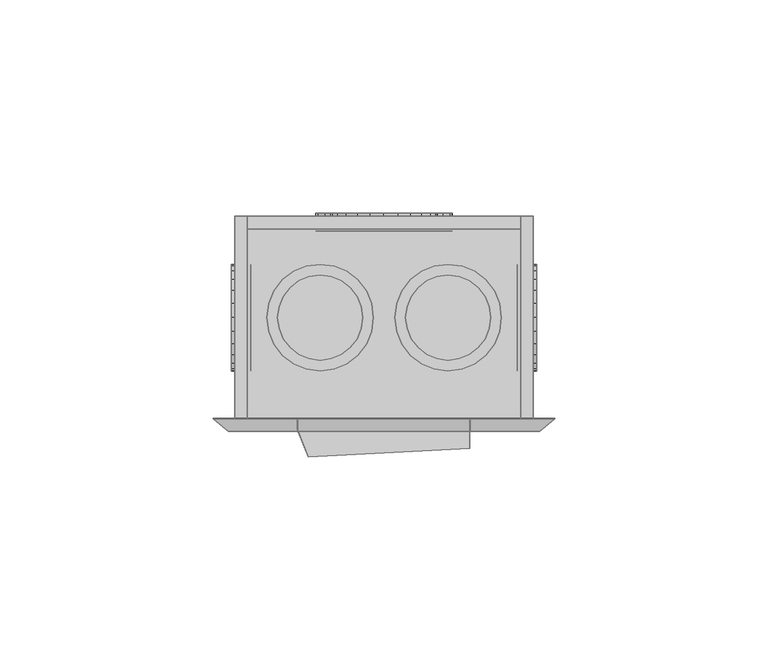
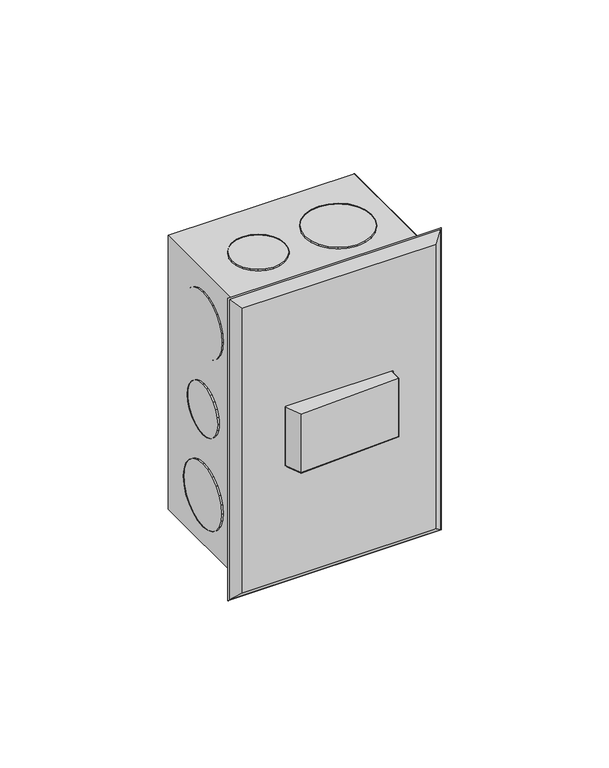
"""IFC4 building model written with IfcOpenShell, lengths in millimetres: proxy geometry,  210289 :  210289."""

from ifc_helpers import new_model, si_unit, origin, place, context, project, spatial, triangles, source, transform, mapped, element, save


def generic_models_4360b8d7(model_context):
    return source(origin(), model_context, "Body", "Tessellation", [
        triangles([(15874.5996368, 11498.7004578, 1254.3000378), (15871.5998199, 11498.7004578, 1148.7000154), (15874.5996368, 11498.7004578, 1145.6999805), (15871.5998199, 11498.7004578, 1251.2999302), (15804.6004211, 11498.7004578, 1254.3000378), (15807.600238, 11498.7004578, 1251.2999302), (15804.6004211, 11498.7004578, 1145.6999805), (15807.600238, 11498.7004578, 1148.7000154), (15871.5998199, 11546.199884, 1251.2999302), (15871.5998199, 11546.199884, 1148.7000154), (15804.6004211, 11546.199884, 1254.3000378), (15804.6004211, 11546.199884, 1145.6999805), (15807.600238, 11546.199884, 1251.2999302), (15874.5996368, 11546.199884, 1145.6999805), (15807.600238, 11546.199884, 1148.7000154), (15874.5996368, 11546.199884, 1254.3000378), (15871.5998199, 11543.2000671, 1251.2999302), (15807.600238, 11543.2000671, 1148.7000154), (15871.5998199, 11543.2000671, 1148.7000154), (15807.600238, 11543.2000671, 1251.2999302), (15853.499762, 11542.7000977, 1191.9999887), (15847.6001221, 11542.7000977, 1186.0999855), (15850.8999207, 11542.7000977, 1188.6999722), (15855.0996643, 11542.7000977, 1195.8999687), (15843.800354, 11542.7000977, 1184.5000105), (15855.5996338, 11542.7000977, 1200.0000092), (15839.5994476, 11542.7000977, 1183.9999683), (15855.0996643, 11542.7000977, 1204.0999769), (15835.4996979, 11542.7000977, 1184.5000105), (15853.499762, 11542.7000977, 1208.0000296), (15831.5999359, 11542.7000977, 1186.0999855), (15850.8999207, 11542.7000977, 1211.2999735), (15828.3001373, 11542.7000977, 1188.6999722), (15847.6001221, 11542.7000977, 1213.9000328), (15825.8002899, 11542.7000977, 1191.9999887), (15843.800354, 11542.7000977, 1215.5000078), (15824.2003876, 11542.7000977, 1195.8999687), (15839.5994476, 11542.7000977, 1215.9999773), (15823.6004242, 11542.7000977, 1200.0000092), (15835.4996979, 11542.7000977, 1215.5000078), (15824.2003876, 11542.7000977, 1204.0999769), (15831.5999359, 11542.7000977, 1213.9000328), (15825.8002899, 11542.7000977, 1208.0000296), (15828.3001373, 11542.7000977, 1211.2999735), (15835.4996979, 11546.8998413, 1184.5000105), (15839.5994476, 11546.8998413, 1183.9999683), (15843.800354, 11546.8998413, 1184.5000105), (15847.6001221, 11546.8998413, 1186.0999855), (15850.8999207, 11546.8998413, 1188.6999722), (15853.499762, 11546.8998413, 1191.9999887), (15855.0996643, 11546.8998413, 1195.8999687), (15855.5996338, 11546.8998413, 1200.0000092), (15855.0996643, 11546.8998413, 1204.0999769), (15853.499762, 11546.8998413, 1208.0000296), (15850.8999207, 11546.8998413, 1211.2999735), (15847.6001221, 11546.8998413, 1213.9000328), (15843.800354, 11546.8998413, 1215.5000078), (15839.5994476, 11546.8998413, 1215.9999773), (15835.4996979, 11546.8998413, 1215.5000078), (15831.5999359, 11546.8998413, 1213.9000328), (15828.3001373, 11546.8998413, 1211.2999735), (15825.8002899, 11546.8998413, 1208.0000296), (15824.2003876, 11546.8998413, 1204.0999769), (15823.6004242, 11546.8998413, 1200.0000092), (15824.2003876, 11546.8998413, 1195.8999687), (15825.8002899, 11546.8998413, 1191.9999887), (15828.3001373, 11546.8998413, 1188.6999722), (15831.5999359, 11546.8998413, 1186.0999855), (15850.4999451, 11542.7000977, 1227.8000565), (15845.9002258, 11542.7000977, 1223.2000465), (15848.5000671, 11542.7000977, 1225.2000698), (15851.6998718, 11542.7000977, 1230.8000187), (15842.9004089, 11542.7000977, 1221.8999805), (15852.0998474, 11542.7000977, 1233.9999687), (15839.5994476, 11542.7000977, 1221.500005), (15851.6998718, 11542.7000977, 1237.2000641), (15836.3996429, 11542.7000977, 1221.8999805), (15850.4999451, 11542.7000977, 1240.3000202), (15833.399826, 11542.7000977, 1223.2000465), (15848.5000671, 11542.7000977, 1242.800013), (15830.7999847, 11542.7000977, 1225.2000698), (15828.8001068, 11542.7000977, 1227.8000565), (15845.9002258, 11542.7000977, 1244.8000362), (15842.9004089, 11542.7000977, 1246.0999569), (15827.6001801, 11542.7000977, 1230.8000187), (15839.5994476, 11542.7000977, 1246.4999325), (15827.1002106, 11542.7000977, 1233.9999687), (15836.3996429, 11542.7000977, 1246.0999569), (15827.6001801, 11542.7000977, 1237.2000641), (15828.8001068, 11542.7000977, 1240.3000202), (15833.399826, 11542.7000977, 1244.8000362), (15830.7999847, 11542.7000977, 1242.800013), (15827.6001801, 11546.8998413, 1230.8000187), (15828.8001068, 11546.8998413, 1227.8000565), (15830.7999847, 11546.8998413, 1225.2000698), (15833.399826, 11546.8998413, 1223.2000465), (15836.3996429, 11546.8998413, 1221.8999805), (15839.5994476, 11546.8998413, 1221.500005), (15842.9004089, 11546.8998413, 1221.8999805), (15845.9002258, 11546.8998413, 1223.2000465), (15848.5000671, 11546.8998413, 1225.2000698), (15850.4999451, 11546.8998413, 1227.8000565), (15851.6998718, 11546.8998413, 1230.8000187), (15852.0998474, 11546.8998413, 1233.9999687), (15851.6998718, 11546.8998413, 1237.2000641), (15850.4999451, 11546.8998413, 1240.3000202), (15848.5000671, 11546.8998413, 1242.800013), (15845.9002258, 11546.8998413, 1244.8000362), (15842.9004089, 11546.8998413, 1246.0999569), (15839.5994476, 11546.8998413, 1246.4999325), (15836.3996429, 11546.8998413, 1246.0999569), (15833.399826, 11546.8998413, 1244.8000362), (15830.7999847, 11546.8998413, 1242.800013), (15828.8001068, 11546.8998413, 1240.3000202), (15827.6001801, 11546.8998413, 1237.2000641), (15827.1002106, 11546.8998413, 1233.9999687), (15845.9002258, 11546.8998413, 1155.1999821), (15850.4999451, 11546.8998413, 1159.6999981), (15848.5000671, 11546.8998413, 1157.2000053), (15842.9004089, 11546.8998413, 1153.8999887), (15851.6998718, 11546.8998413, 1162.8000269), (15839.5994476, 11546.8998413, 1153.5000132), (15852.0998474, 11546.8998413, 1165.9999769), (15836.3996429, 11546.8998413, 1153.8999887), (15851.6998718, 11546.8998413, 1169.1999996), (15833.399826, 11546.8998413, 1155.1999821), (15850.4999451, 11546.8998413, 1172.2000345), (15830.7999847, 11546.8998413, 1157.2000053), (15848.5000671, 11546.8998413, 1174.8000212), (15828.8001068, 11546.8998413, 1159.6999981), (15845.9002258, 11546.8998413, 1176.7999718), (15827.6001801, 11546.8998413, 1162.8000269), (15842.9004089, 11546.8998413, 1178.0999651), (15839.5994476, 11546.8998413, 1178.5000134), (15827.1002106, 11546.8998413, 1165.9999769), (15827.6001801, 11546.8998413, 1169.1999996), (15836.3996429, 11546.8998413, 1178.0999651), (15828.8001068, 11546.8998413, 1172.2000345), (15833.399826, 11546.8998413, 1176.7999718), (15830.7999847, 11546.8998413, 1174.8000212), (15842.9004089, 11542.7000977, 1178.0999651), (15839.5994476, 11542.7000977, 1178.5000134), (15845.9002258, 11542.7000977, 1176.7999718), (15848.5000671, 11542.7000977, 1174.8000212), (15850.4999451, 11542.7000977, 1172.2000345), (15851.6998718, 11542.7000977, 1169.1999996), (15852.0998474, 11542.7000977, 1165.9999769), (15851.6998718, 11542.7000977, 1162.8000269), (15850.4999451, 11542.7000977, 1159.6999981), (15848.5000671, 11542.7000977, 1157.2000053), (15845.9002258, 11542.7000977, 1155.1999821), (15842.9004089, 11542.7000977, 1153.8999887), (15839.5994476, 11542.7000977, 1153.5000132), (15836.3996429, 11542.7000977, 1153.8999887), (15833.399826, 11542.7000977, 1155.1999821), (15830.7999847, 11542.7000977, 1157.2000053), (15828.8001068, 11542.7000977, 1159.6999981), (15827.6001801, 11542.7000977, 1162.8000269), (15827.1002106, 11542.7000977, 1165.9999769), (15827.6001801, 11542.7000977, 1169.1999996), (15828.8001068, 11542.7000977, 1172.2000345), (15830.7999847, 11542.7000977, 1174.8000212), (15833.399826, 11542.7000977, 1176.7999718), (15836.3996429, 11542.7000977, 1178.0999651), (15870.7998688, 11527.3998688, 1191.3000315), (15870.7998688, 11531.0996429, 1195.0000237), (15870.7998688, 11529.4997406, 1192.9000065), (15870.7998688, 11532.0995819, 1197.4000225), (15870.7998688, 11525.0000153, 1190.3000198), (15870.7998688, 11532.3995636, 1200.0000092), (15870.7998688, 11522.400174, 1189.9999655), (15870.7998688, 11519.9003265, 1190.3000198), (15870.7998688, 11532.0995819, 1202.5999958), (15870.7998688, 11531.0996429, 1204.9999947), (15870.7998688, 11517.4004791, 1191.3000315), (15870.7998688, 11529.4997406, 1207.1000118), (15870.7998688, 11515.3994385, 1192.9000065), (15870.7998688, 11513.7995361, 1195.0000237), (15870.7998688, 11527.3998688, 1208.6999868), (15870.7998688, 11512.7995972, 1197.4000225), (15870.7998688, 11525.0000153, 1209.6999985), (15870.7998688, 11512.3996216, 1200.0000092), (15870.7998688, 11522.400174, 1209.9999802), (15870.7998688, 11512.7995972, 1202.5999958), (15870.7998688, 11519.9003265, 1209.6999985), (15870.7998688, 11517.4004791, 1208.6999868), (15870.7998688, 11513.7995361, 1204.9999947), (15870.7998688, 11515.3994385, 1207.1000118), (15875.399588, 11522.400174, 1189.9999655), (15875.399588, 11525.0000153, 1190.3000198), (15875.399588, 11519.9003265, 1190.3000198), (15875.399588, 11517.4004791, 1191.3000315), (15875.399588, 11515.3994385, 1192.9000065), (15875.399588, 11513.7995361, 1195.0000237), (15875.399588, 11512.7995972, 1197.4000225), (15875.399588, 11512.3996216, 1200.0000092), (15875.399588, 11512.7995972, 1202.5999958), (15875.399588, 11513.7995361, 1204.9999947), (15875.399588, 11515.3994385, 1207.1000118), (15875.399588, 11517.4004791, 1208.6999868), (15875.399588, 11519.9003265, 1209.6999985), (15875.399588, 11522.400174, 1209.9999802), (15875.399588, 11525.0000153, 1209.6999985), (15875.399588, 11527.3998688, 1208.6999868), (15875.399588, 11529.4997406, 1207.1000118), (15875.399588, 11531.0996429, 1204.9999947), (15875.399588, 11532.0995819, 1202.5999958), (15875.399588, 11532.3995636, 1200.0000092), (15875.399588, 11532.0995819, 1197.4000225), (15875.399588, 11531.0996429, 1195.0000237), (15875.399588, 11529.4997406, 1192.9000065), (15875.399588, 11527.3998688, 1191.3000315), (15870.7998688, 11528.6997894, 1223.2000465), (15870.7998688, 11533.2995087, 1227.8000565), (15870.7998688, 11531.2996307, 1225.2000698), (15870.7998688, 11525.6999725, 1221.8999805), (15870.7998688, 11534.4994354, 1230.8000187), (15870.7998688, 11534.9005737, 1233.9999687), (15870.7998688, 11522.400174, 1221.500005), (15870.7998688, 11519.2003693, 1221.8999805), (15870.7998688, 11534.4994354, 1237.2000641), (15870.7998688, 11533.2995087, 1240.3000202), (15870.7998688, 11516.2005524, 1223.2000465), (15870.7998688, 11513.5995483, 1225.2000698), (15870.7998688, 11531.2996307, 1242.800013), (15870.7998688, 11511.5996704, 1227.8000565), (15870.7998688, 11528.6997894, 1244.8000362), (15870.7998688, 11510.3997437, 1230.8000187), (15870.7998688, 11525.6999725, 1246.0999569), (15870.7998688, 11509.8997742, 1233.9999687), (15870.7998688, 11522.400174, 1246.4999325), (15870.7998688, 11510.3997437, 1237.2000641), (15870.7998688, 11519.2003693, 1246.0999569), (15870.7998688, 11511.5996704, 1240.3000202), (15870.7998688, 11516.2005524, 1244.8000362), (15870.7998688, 11513.5995483, 1242.800013), (15875.399588, 11522.400174, 1221.500005), (15875.399588, 11525.6999725, 1221.8999805), (15875.399588, 11519.2003693, 1221.8999805), (15875.399588, 11516.2005524, 1223.2000465), (15875.399588, 11513.5995483, 1225.2000698), (15875.399588, 11511.5996704, 1227.8000565), (15875.399588, 11510.3997437, 1230.8000187), (15875.399588, 11509.8997742, 1233.9999687), (15875.399588, 11510.3997437, 1237.2000641), (15875.399588, 11511.5996704, 1240.3000202), (15875.399588, 11513.5995483, 1242.800013), (15875.399588, 11516.2005524, 1244.8000362), (15875.399588, 11519.2003693, 1246.0999569), (15875.399588, 11522.400174, 1246.4999325), (15875.399588, 11525.6999725, 1246.0999569), (15875.399588, 11528.6997894, 1244.8000362), (15875.399588, 11531.2996307, 1242.800013), (15875.399588, 11533.2995087, 1240.3000202), (15875.399588, 11534.4994354, 1237.2000641), (15875.399588, 11534.9005737, 1233.9999687), (15875.399588, 11534.4994354, 1230.8000187), (15875.399588, 11533.2995087, 1227.8000565), (15875.399588, 11531.2996307, 1225.2000698), (15875.399588, 11528.6997894, 1223.2000465), (15875.399588, 11533.2995087, 1159.6999981), (15875.399588, 11528.6997894, 1155.1999821), (15875.399588, 11531.2996307, 1157.2000053), (15875.399588, 11534.4994354, 1162.8000269), (15875.399588, 11525.6999725, 1153.8999887), (15875.399588, 11534.9005737, 1165.9999769), (15875.399588, 11522.400174, 1153.5000132), (15875.399588, 11534.4994354, 1169.1999996), (15875.399588, 11519.2003693, 1153.8999887), (15875.399588, 11533.2995087, 1172.2000345), (15875.399588, 11516.2005524, 1155.1999821), (15875.399588, 11531.2996307, 1174.8000212), (15875.399588, 11513.5995483, 1157.2000053), (15875.399588, 11528.6997894, 1176.7999718), (15875.399588, 11511.5996704, 1159.6999981), (15875.399588, 11525.6999725, 1178.0999651), (15875.399588, 11510.3997437, 1162.8000269), (15875.399588, 11522.400174, 1178.5000134), (15875.399588, 11509.8997742, 1165.9999769), (15875.399588, 11519.2003693, 1178.0999651), (15875.399588, 11510.3997437, 1169.1999996), (15875.399588, 11516.2005524, 1176.7999718), (15875.399588, 11511.5996704, 1172.2000345), (15875.399588, 11513.5995483, 1174.8000212), (15870.7998688, 11525.6999725, 1178.0999651), (15870.7998688, 11522.400174, 1178.5000134), (15870.7998688, 11519.2003693, 1178.0999651), (15870.7998688, 11516.2005524, 1176.7999718), (15870.7998688, 11513.5995483, 1174.8000212), (15870.7998688, 11511.5996704, 1172.2000345), (15870.7998688, 11510.3997437, 1169.1999996), (15870.7998688, 11509.8997742, 1165.9999769), (15870.7998688, 11510.3997437, 1162.8000269), (15870.7998688, 11511.5996704, 1159.6999981), (15870.7998688, 11513.5995483, 1157.2000053), (15870.7998688, 11516.2005524, 1155.1999821), (15870.7998688, 11519.2003693, 1153.8999887), (15870.7998688, 11522.400174, 1153.5000132), (15870.7998688, 11525.6999725, 1153.8999887), (15870.7998688, 11528.6997894, 1155.1999821), (15870.7998688, 11531.2996307, 1157.2000053), (15870.7998688, 11533.2995087, 1159.6999981), (15870.7998688, 11534.4994354, 1162.8000269), (15870.7998688, 11534.9005737, 1165.9999769), (15870.7998688, 11534.4994354, 1169.1999996), (15870.7998688, 11533.2995087, 1172.2000345), (15870.7998688, 11531.2996307, 1174.8000212), (15870.7998688, 11528.6997894, 1176.7999718), (15808.4001892, 11531.0996429, 1195.0000237), (15808.4001892, 11527.3998688, 1191.3000315), (15808.4001892, 11529.4997406, 1192.9000065), (15808.4001892, 11532.0995819, 1197.4000225), (15808.4001892, 11525.0000153, 1190.3000198), (15808.4001892, 11532.3995636, 1200.0000092), (15808.4001892, 11522.400174, 1189.9999655), (15808.4001892, 11532.0995819, 1202.5999958), (15808.4001892, 11519.9003265, 1190.3000198), (15808.4001892, 11531.0996429, 1204.9999947), (15808.4001892, 11517.4004791, 1191.3000315), (15808.4001892, 11529.4997406, 1207.1000118), (15808.4001892, 11515.3994385, 1192.9000065), (15808.4001892, 11527.3998688, 1208.6999868), (15808.4001892, 11513.7995361, 1195.0000237), (15808.4001892, 11525.0000153, 1209.6999985), (15808.4001892, 11512.7995972, 1197.4000225), (15808.4001892, 11512.3996216, 1200.0000092), (15808.4001892, 11522.400174, 1209.9999802), (15808.4001892, 11519.9003265, 1209.6999985), (15808.4001892, 11512.7995972, 1202.5999958), (15808.4001892, 11517.4004791, 1208.6999868), (15808.4001892, 11513.7995361, 1204.9999947), (15808.4001892, 11515.3994385, 1207.1000118), (15803.80047, 11525.0000153, 1209.6999985), (15803.80047, 11522.400174, 1209.9999802), (15803.80047, 11519.9003265, 1209.6999985), (15803.80047, 11517.4004791, 1208.6999868), (15803.80047, 11515.3994385, 1207.1000118), (15803.80047, 11513.7995361, 1204.9999947), (15803.80047, 11512.7995972, 1202.5999958), (15803.80047, 11512.3996216, 1200.0000092), (15803.80047, 11512.7995972, 1197.4000225), (15803.80047, 11513.7995361, 1195.0000237), (15803.80047, 11515.3994385, 1192.9000065), (15803.80047, 11517.4004791, 1191.3000315), (15803.80047, 11519.9003265, 1190.3000198), (15803.80047, 11522.400174, 1189.9999655), (15803.80047, 11525.0000153, 1190.3000198), (15803.80047, 11527.3998688, 1191.3000315), (15803.80047, 11529.4997406, 1192.9000065), (15803.80047, 11531.0996429, 1195.0000237), (15803.80047, 11532.0995819, 1197.4000225), (15803.80047, 11532.3995636, 1200.0000092), (15803.80047, 11532.0995819, 1202.5999958), (15803.80047, 11531.0996429, 1204.9999947), (15803.80047, 11529.4997406, 1207.1000118), (15803.80047, 11527.3998688, 1208.6999868), (15808.4001892, 11533.2995087, 1159.6999981), (15808.4001892, 11528.6997894, 1155.1999821), (15808.4001892, 11531.2996307, 1157.2000053), (15808.4001892, 11534.4994354, 1162.8000269), (15808.4001892, 11525.6999725, 1153.8999887), (15808.4001892, 11534.9005737, 1165.9999769), (15808.4001892, 11522.400174, 1153.5000132), (15808.4001892, 11534.4994354, 1169.1999996), (15808.4001892, 11519.2003693, 1153.8999887), (15808.4001892, 11533.2995087, 1172.2000345), (15808.4001892, 11516.2005524, 1155.1999821), (15808.4001892, 11531.2996307, 1174.8000212), (15808.4001892, 11513.5995483, 1157.2000053), (15808.4001892, 11528.6997894, 1176.7999718), (15808.4001892, 11511.5996704, 1159.6999981), (15808.4001892, 11525.6999725, 1178.0999651), (15808.4001892, 11510.3997437, 1162.8000269), (15808.4001892, 11522.400174, 1178.5000134), (15808.4001892, 11509.8997742, 1165.9999769), (15808.4001892, 11519.2003693, 1178.0999651), (15808.4001892, 11510.3997437, 1169.1999996), (15808.4001892, 11516.2005524, 1176.7999718), (15808.4001892, 11511.5996704, 1172.2000345), (15808.4001892, 11513.5995483, 1174.8000212), (15803.80047, 11525.6999725, 1178.0999651), (15803.80047, 11522.400174, 1178.5000134), (15803.80047, 11519.2003693, 1178.0999651), (15803.80047, 11516.2005524, 1176.7999718), (15803.80047, 11513.5995483, 1174.8000212), (15803.80047, 11511.5996704, 1172.2000345), (15803.80047, 11510.3997437, 1169.1999996), (15803.80047, 11509.8997742, 1165.9999769), (15803.80047, 11510.3997437, 1162.8000269), (15803.80047, 11511.5996704, 1159.6999981), (15803.80047, 11513.5995483, 1157.2000053), (15803.80047, 11516.2005524, 1155.1999821), (15803.80047, 11519.2003693, 1153.8999887), (15803.80047, 11522.400174, 1153.5000132), (15803.80047, 11525.6999725, 1153.8999887), (15803.80047, 11528.6997894, 1155.1999821), (15803.80047, 11531.2996307, 1157.2000053), (15803.80047, 11533.2995087, 1159.6999981), (15803.80047, 11534.4994354, 1162.8000269), (15803.80047, 11534.9005737, 1165.9999769), (15803.80047, 11534.4994354, 1169.1999996), (15803.80047, 11533.2995087, 1172.2000345), (15803.80047, 11531.2996307, 1174.8000212), (15803.80047, 11528.6997894, 1176.7999718), (15803.80047, 11528.6997894, 1223.2000465), (15803.80047, 11533.2995087, 1227.8000565), (15803.80047, 11531.2996307, 1225.2000698), (15803.80047, 11525.6999725, 1221.8999805), (15803.80047, 11534.4994354, 1230.8000187), (15803.80047, 11534.9005737, 1233.9999687), (15803.80047, 11522.400174, 1221.500005), (15803.80047, 11519.2003693, 1221.8999805), (15803.80047, 11534.4994354, 1237.2000641), (15803.80047, 11533.2995087, 1240.3000202), (15803.80047, 11516.2005524, 1223.2000465), (15803.80047, 11513.5995483, 1225.2000698), (15803.80047, 11531.2996307, 1242.800013), (15803.80047, 11511.5996704, 1227.8000565), (15803.80047, 11528.6997894, 1244.8000362), (15803.80047, 11510.3997437, 1230.8000187), (15803.80047, 11525.6999725, 1246.0999569), (15803.80047, 11509.8997742, 1233.9999687), (15803.80047, 11522.400174, 1246.4999325), (15803.80047, 11510.3997437, 1237.2000641), (15803.80047, 11519.2003693, 1246.0999569), (15803.80047, 11511.5996704, 1240.3000202), (15803.80047, 11516.2005524, 1244.8000362), (15803.80047, 11513.5995483, 1242.800013), (15808.4001892, 11522.400174, 1221.500005), (15808.4001892, 11525.6999725, 1221.8999805), (15808.4001892, 11519.2003693, 1221.8999805), (15808.4001892, 11516.2005524, 1223.2000465), (15808.4001892, 11513.5995483, 1225.2000698), (15808.4001892, 11511.5996704, 1227.8000565), (15808.4001892, 11510.3997437, 1230.8000187), (15808.4001892, 11509.8997742, 1233.9999687), (15808.4001892, 11510.3997437, 1237.2000641), (15808.4001892, 11511.5996704, 1240.3000202), (15808.4001892, 11513.5995483, 1242.800013), (15808.4001892, 11516.2005524, 1244.8000362), (15808.4001892, 11519.2003693, 1246.0999569), (15808.4001892, 11522.400174, 1246.4999325), (15808.4001892, 11525.6999725, 1246.0999569), (15808.4001892, 11528.6997894, 1244.8000362), (15808.4001892, 11531.2996307, 1242.800013), (15808.4001892, 11533.2995087, 1240.3000202), (15808.4001892, 11534.4994354, 1237.2000641), (15808.4001892, 11534.9005737, 1233.9999687), (15808.4001892, 11534.4994354, 1230.8000187), (15808.4001892, 11533.2995087, 1227.8000565), (15808.4001892, 11531.2996307, 1225.2000698), (15808.4001892, 11528.6997894, 1223.2000465), (15865.5001923, 11528.6997894, 1250.9999485), (15860.900473, 11533.2995087, 1250.9999485), (15863.5003143, 11531.2996307, 1250.9999485), (15866.700119, 11525.6999725, 1250.9999485), (15857.8994934, 11534.4994354, 1250.9999485), (15854.5996948, 11534.9005737, 1250.9999485), (15867.1000946, 11522.400174, 1250.9999485), (15866.700119, 11519.2003693, 1250.9999485), (15851.3998901, 11534.4994354, 1250.9999485), (15848.4000732, 11533.2995087, 1250.9999485), (15865.5001923, 11516.2005524, 1250.9999485), (15863.5003143, 11513.5995483, 1250.9999485), (15845.8002319, 11531.2996307, 1250.9999485), (15843.800354, 11528.6997894, 1250.9999485), (15860.900473, 11511.5996704, 1250.9999485), (15857.8994934, 11510.3997437, 1250.9999485), (15842.6004272, 11525.6999725, 1250.9999485), (15854.5996948, 11509.8997742, 1250.9999485), (15842.1004578, 11522.400174, 1250.9999485), (15851.3998901, 11510.3997437, 1250.9999485), (15842.6004272, 11519.2003693, 1250.9999485), (15843.800354, 11516.2005524, 1250.9999485), (15848.4000732, 11511.5996704, 1250.9999485), (15845.8002319, 11513.5995483, 1250.9999485), (15854.5996948, 11534.9005737, 1255.1999828), (15851.3998901, 11534.4994354, 1255.1999828), (15857.8994934, 11534.4994354, 1255.1999828), (15860.900473, 11533.2995087, 1255.1999828), (15863.5003143, 11531.2996307, 1255.1999828), (15865.5001923, 11528.6997894, 1255.1999828), (15866.700119, 11525.6999725, 1255.1999828), (15867.1000946, 11522.400174, 1255.1999828), (15866.700119, 11519.2003693, 1255.1999828), (15865.5001923, 11516.2005524, 1255.1999828), (15863.5003143, 11513.5995483, 1255.1999828), (15860.900473, 11511.5996704, 1255.1999828), (15857.8994934, 11510.3997437, 1255.1999828), (15854.5996948, 11509.8997742, 1255.1999828), (15851.3998901, 11510.3997437, 1255.1999828), (15848.4000732, 11511.5996704, 1255.1999828), (15845.8002319, 11513.5995483, 1255.1999828), (15843.800354, 11516.2005524, 1255.1999828), (15842.6004272, 11519.2003693, 1255.1999828), (15842.1004578, 11522.400174, 1255.1999828), (15842.6004272, 11525.6999725, 1255.1999828), (15843.800354, 11528.6997894, 1255.1999828), (15845.8002319, 11531.2996307, 1255.1999828), (15848.4000732, 11533.2995087, 1255.1999828), (15833.2998322, 11527.3998688, 1250.9999485), (15829.600058, 11531.0996429, 1250.9999485), (15831.6999298, 11529.4997406, 1250.9999485), (15827.2002045, 11532.0995819, 1250.9999485), (15834.2997711, 11525.0000153, 1250.9999485), (15824.6003632, 11532.3995636, 1250.9999485), (15834.5997528, 11522.400174, 1250.9999485), (15834.2997711, 11519.9003265, 1250.9999485), (15822.0005219, 11532.0995819, 1250.9999485), (15819.5995056, 11531.0996429, 1250.9999485), (15833.2998322, 11517.4004791, 1250.9999485), (15817.5996277, 11529.4997406, 1250.9999485), (15831.6999298, 11515.3994385, 1250.9999485), (15829.600058, 11513.7995361, 1250.9999485), (15815.9997253, 11527.3998688, 1250.9999485), (15814.9997864, 11525.0000153, 1250.9999485), (15827.2002045, 11512.7995972, 1250.9999485), (15824.6003632, 11512.3996216, 1250.9999485), (15814.5998108, 11522.400174, 1250.9999485), (15822.0005219, 11512.7995972, 1250.9999485), (15814.9997864, 11519.9003265, 1250.9999485), (15819.5995056, 11513.7995361, 1250.9999485), (15815.9997253, 11517.4004791, 1250.9999485), (15817.5996277, 11515.3994385, 1250.9999485), (15822.0005219, 11532.0995819, 1255.1999828), (15819.5995056, 11531.0996429, 1255.1999828), (15824.6003632, 11532.3995636, 1255.1999828), (15827.2002045, 11532.0995819, 1255.1999828), (15829.600058, 11531.0996429, 1255.1999828), (15831.6999298, 11529.4997406, 1255.1999828), (15833.2998322, 11527.3998688, 1255.1999828), (15834.2997711, 11525.0000153, 1255.1999828), (15834.5997528, 11522.400174, 1255.1999828), (15834.2997711, 11519.9003265, 1255.1999828), (15833.2998322, 11517.4004791, 1255.1999828), (15831.6999298, 11515.3994385, 1255.1999828), (15829.600058, 11513.7995361, 1255.1999828), (15827.2002045, 11512.7995972, 1255.1999828), (15824.6003632, 11512.3996216, 1255.1999828), (15822.0005219, 11512.7995972, 1255.1999828), (15819.5995056, 11513.7995361, 1255.1999828), (15817.5996277, 11515.3994385, 1255.1999828), (15815.9997253, 11517.4004791, 1255.1999828), (15814.9997864, 11519.9003265, 1255.1999828), (15814.5998108, 11522.400174, 1255.1999828), (15814.9997864, 11525.0000153, 1255.1999828), (15815.9997253, 11527.3998688, 1255.1999828), (15817.5996277, 11529.4997406, 1255.1999828), (15863.3003265, 11527.3998688, 1144.8000355), (15859.6005524, 11531.0996429, 1144.8000355), (15861.7004242, 11529.4997406, 1144.8000355), (15857.1995361, 11532.0995819, 1144.8000355), (15864.3002655, 11525.0000153, 1144.8000355), (15854.5996948, 11532.3995636, 1144.8000355), (15864.6002472, 11522.400174, 1144.8000355), (15864.3002655, 11519.9003265, 1144.8000355), (15851.9998535, 11532.0995819, 1144.8000355), (15849.6, 11531.0996429, 1144.8000355), (15863.3003265, 11517.4004791, 1144.8000355), (15847.6001221, 11529.4997406, 1144.8000355), (15861.7004242, 11515.3994385, 1144.8000355), (15859.6005524, 11513.7995361, 1144.8000355), (15846.0002197, 11527.3998688, 1144.8000355), (15845.0002808, 11525.0000153, 1144.8000355), (15857.1995361, 11512.7995972, 1144.8000355), (15854.5996948, 11512.3996216, 1144.8000355), (15844.6003052, 11522.400174, 1144.8000355), (15851.9998535, 11512.7995972, 1144.8000355), (15845.0002808, 11519.9003265, 1144.8000355), (15849.6, 11513.7995361, 1144.8000355), (15846.0002197, 11517.4004791, 1144.8000355), (15847.6001221, 11515.3994385, 1144.8000355), (15857.1995361, 11532.0995819, 1149.099991), (15854.5996948, 11532.3995636, 1149.099991), (15859.6005524, 11531.0996429, 1149.099991), (15861.7004242, 11529.4997406, 1149.099991), (15863.3003265, 11527.3998688, 1149.099991), (15864.3002655, 11525.0000153, 1149.099991), (15864.6002472, 11522.400174, 1149.099991), (15864.3002655, 11519.9003265, 1149.099991), (15863.3003265, 11517.4004791, 1149.099991), (15861.7004242, 11515.3994385, 1149.099991), (15859.6005524, 11513.7995361, 1149.099991), (15857.1995361, 11512.7995972, 1149.099991), (15854.5996948, 11512.3996216, 1149.099991), (15851.9998535, 11512.7995972, 1149.099991), (15849.6, 11513.7995361, 1149.099991), (15847.6001221, 11515.3994385, 1149.099991), (15846.0002197, 11517.4004791, 1149.099991), (15845.0002808, 11519.9003265, 1149.099991), (15844.6003052, 11522.400174, 1149.099991), (15845.0002808, 11525.0000153, 1149.099991), (15846.0002197, 11527.3998688, 1149.099991), (15847.6001221, 11529.4997406, 1149.099991), (15849.6, 11531.0996429, 1149.099991), (15851.9998535, 11532.0995819, 1149.099991), (15835.4996979, 11528.6997894, 1144.8000355), (15830.8999786, 11533.2995087, 1144.8000355), (15833.4998199, 11531.2996307, 1144.8000355), (15836.6996246, 11525.6999725, 1144.8000355), (15827.9001617, 11534.4994354, 1144.8000355), (15824.6003632, 11534.9005737, 1144.8000355), (15837.0996002, 11522.400174, 1144.8000355), (15836.6996246, 11519.2003693, 1144.8000355), (15821.4005585, 11534.4994354, 1144.8000355), (15818.3995789, 11533.2995087, 1144.8000355), (15835.4996979, 11516.2005524, 1144.8000355), (15833.4998199, 11513.5995483, 1144.8000355), (15815.7997375, 11531.2996307, 1144.8000355), (15813.7998596, 11528.6997894, 1144.8000355), (15830.8999786, 11511.5996704, 1144.8000355), (15827.9001617, 11510.3997437, 1144.8000355), (15812.5999329, 11525.6999725, 1144.8000355), (15824.6003632, 11509.8997742, 1144.8000355), (15812.0999634, 11522.400174, 1144.8000355), (15821.4005585, 11510.3997437, 1144.8000355), (15812.5999329, 11519.2003693, 1144.8000355), (15813.7998596, 11516.2005524, 1144.8000355), (15818.3995789, 11511.5996704, 1144.8000355), (15815.7997375, 11513.5995483, 1144.8000355), (15821.4005585, 11534.4994354, 1149.099991), (15818.3995789, 11533.2995087, 1149.099991), (15824.6003632, 11534.9005737, 1149.099991), (15827.9001617, 11534.4994354, 1149.099991), (15830.8999786, 11533.2995087, 1149.099991), (15833.4998199, 11531.2996307, 1149.099991), (15835.4996979, 11528.6997894, 1149.099991), (15836.6996246, 11525.6999725, 1149.099991), (15837.0996002, 11522.400174, 1149.099991), (15836.6996246, 11519.2003693, 1149.099991), (15835.4996979, 11516.2005524, 1149.099991), (15833.4998199, 11513.5995483, 1149.099991), (15830.8999786, 11511.5996704, 1149.099991), (15827.9001617, 11510.3997437, 1149.099991), (15824.6003632, 11509.8997742, 1149.099991), (15821.4005585, 11510.3997437, 1149.099991), (15818.3995789, 11511.5996704, 1149.099991), (15815.7997375, 11513.5995483, 1149.099991), (15813.7998596, 11516.2005524, 1149.099991), (15812.5999329, 11519.2003693, 1149.099991), (15812.0999634, 11522.400174, 1149.099991), (15812.5999329, 11525.6999725, 1149.099991), (15813.7998596, 11528.6997894, 1149.099991), (15815.7997375, 11531.2996307, 1149.099991), (15799.5995636, 11498.7004578, 1139.9999651), (15859.8005402, 11498.7004578, 1188.2999966), (15879.6004944, 11498.7004578, 1139.9999651), (15819.3995178, 11498.7004578, 1188.2999966), (15799.5995636, 11498.7004578, 1259.9999805), (15819.3995178, 11498.7004578, 1211.7000217), (15879.6004944, 11498.7004578, 1259.9999805), (15859.8005402, 11498.7004578, 1211.7000217), (15819.3995178, 11495.6994781, 1188.2999966), (15819.3995178, 11495.6994781, 1211.7000217), (15859.8005402, 11495.6994781, 1188.2999966), (15859.8005402, 11495.6994781, 1211.7000217), (15876.0995453, 11495.6994781, 1143.4999695), (15876.0995453, 11495.6994781, 1256.5000488), (15803.1005127, 11495.6994781, 1143.4999695), (15803.1005127, 11495.6994781, 1256.5000488), (15859.7005463, 11491.6997223, 1188.1000088), (15819.2995239, 11498.7004578, 1188.1000088), (15859.7005463, 11498.7004578, 1188.1000088), (15821.900528, 11489.7998383, 1188.1000088), (15819.2995239, 11496.1994476, 1188.1000088), (15859.7005463, 11498.7004578, 1211.500034), (15819.2995239, 11498.7004578, 1211.500034), (15859.7005463, 11491.6997223, 1211.500034), (15821.900528, 11489.7998383, 1211.500034), (15819.2995239, 11496.1994476, 1211.500034)], [[1, 2, 3], [2, 1, 4], [5, 4, 1], [4, 5, 6], [3, 2, 7], [7, 2, 8], [7, 8, 6], [7, 6, 5], [2, 9, 10], [9, 2, 4], [7, 11, 12], [11, 7, 5], [4, 13, 9], [13, 4, 6], [3, 12, 14], [12, 3, 7], [13, 8, 15], [8, 13, 6], [16, 3, 14], [3, 16, 1], [15, 2, 10], [2, 15, 8], [11, 1, 16], [1, 11, 5], [12, 10, 14], [10, 12, 15], [11, 15, 12], [15, 11, 13], [14, 10, 16], [16, 10, 9], [16, 9, 13], [16, 13, 11], [17, 18, 19], [18, 17, 20], [18, 13, 15], [13, 18, 20], [19, 15, 10], [15, 19, 18], [9, 19, 10], [19, 9, 17], [13, 17, 9], [17, 13, 20], [15, 9, 10], [9, 15, 13], [21, 22, 23], [22, 21, 24], [25, 22, 24], [25, 24, 26], [27, 25, 26], [27, 26, 28], [29, 27, 28], [29, 28, 30], [31, 29, 30], [31, 30, 32], [31, 32, 33], [33, 32, 34], [33, 34, 35], [35, 34, 36], [35, 36, 37], [37, 36, 38], [37, 38, 39], [39, 38, 40], [39, 40, 41], [41, 40, 42], [41, 42, 43], [43, 42, 44], [27, 45, 46], [45, 27, 29], [25, 46, 47], [46, 25, 27], [22, 47, 48], [47, 22, 25], [23, 48, 49], [48, 23, 22], [50, 23, 49], [23, 50, 21], [51, 21, 50], [21, 51, 24], [52, 24, 51], [24, 52, 26], [53, 26, 52], [26, 53, 28], [54, 28, 53], [28, 54, 30], [55, 30, 54], [30, 55, 32], [56, 32, 55], [32, 56, 34], [57, 34, 56], [34, 57, 36], [58, 36, 57], [36, 58, 38], [59, 38, 58], [38, 59, 40], [60, 40, 59], [40, 60, 42], [61, 42, 60], [42, 61, 44], [43, 61, 62], [61, 43, 44], [41, 62, 63], [62, 41, 43], [39, 63, 64], [63, 39, 41], [37, 64, 65], [64, 37, 39], [35, 65, 66], [65, 35, 37], [33, 66, 67], [66, 33, 35], [31, 67, 68], [67, 31, 33], [29, 68, 45], [68, 29, 31], [48, 50, 49], [50, 48, 47], [51, 50, 47], [51, 47, 46], [52, 51, 46], [52, 46, 45], [53, 52, 45], [53, 45, 68], [54, 53, 68], [54, 68, 67], [54, 67, 55], [55, 67, 66], [55, 66, 56], [56, 66, 65], [56, 65, 57], [57, 65, 64], [57, 64, 58], [58, 64, 63], [58, 63, 59], [59, 63, 62], [59, 62, 60], [60, 62, 61], [69, 70, 71], [70, 69, 72], [73, 70, 72], [73, 72, 74], [75, 73, 74], [75, 74, 76], [77, 75, 76], [77, 76, 78], [79, 77, 78], [79, 78, 80], [81, 79, 80], [81, 80, 82], [82, 80, 83], [82, 83, 84], [82, 84, 85], [85, 84, 86], [85, 86, 87], [87, 86, 88], [87, 88, 89], [89, 88, 90], [90, 88, 91], [90, 91, 92], [82, 93, 94], [93, 82, 85], [81, 94, 95], [94, 81, 82], [79, 95, 96], [95, 79, 81], [77, 96, 97], [96, 77, 79], [75, 97, 98], [97, 75, 77], [73, 98, 99], [98, 73, 75], [70, 99, 100], [99, 70, 73], [71, 100, 101], [100, 71, 70], [102, 71, 101], [71, 102, 69], [103, 69, 102], [69, 103, 72], [104, 72, 103], [72, 104, 74], [105, 74, 104], [74, 105, 76], [106, 76, 105], [76, 106, 78], [107, 78, 106], [78, 107, 80], [108, 80, 107], [80, 108, 83], [109, 83, 108], [83, 109, 84], [110, 84, 109], [84, 110, 86], [111, 86, 110], [86, 111, 88], [112, 88, 111], [88, 112, 91], [113, 91, 112], [91, 113, 92], [90, 113, 114], [113, 90, 92], [89, 114, 115], [114, 89, 90], [87, 115, 116], [115, 87, 89], [85, 116, 93], [116, 85, 87], [100, 102, 101], [102, 100, 99], [103, 102, 99], [103, 99, 98], [104, 103, 98], [104, 98, 97], [105, 104, 97], [106, 105, 97], [106, 97, 96], [106, 96, 95], [106, 95, 107], [107, 95, 94], [107, 94, 108], [108, 94, 93], [108, 93, 109], [109, 93, 116], [109, 116, 110], [110, 116, 115], [110, 115, 111], [111, 115, 114], [111, 114, 112], [112, 114, 113], [117, 118, 119], [118, 117, 120], [121, 118, 120], [121, 120, 122], [123, 121, 122], [123, 122, 124], [125, 123, 124], [125, 124, 126], [127, 125, 126], [127, 126, 128], [127, 128, 129], [129, 128, 130], [129, 130, 131], [131, 130, 132], [131, 132, 133], [133, 132, 134], [134, 132, 135], [134, 135, 136], [134, 136, 137], [137, 136, 138], [137, 138, 139], [139, 138, 140], [134, 141, 133], [141, 134, 142], [133, 143, 131], [143, 133, 141], [131, 144, 129], [144, 131, 143], [129, 145, 127], [145, 129, 144], [127, 146, 125], [146, 127, 145], [125, 147, 123], [147, 125, 146], [123, 148, 121], [148, 123, 147], [121, 149, 118], [149, 121, 148], [118, 150, 119], [150, 118, 149], [150, 117, 119], [117, 150, 151], [151, 120, 117], [120, 151, 152], [152, 122, 120], [122, 152, 153], [153, 124, 122], [124, 153, 154], [154, 126, 124], [126, 154, 155], [155, 128, 126], [128, 155, 156], [156, 130, 128], [130, 156, 157], [157, 132, 130], [132, 157, 158], [158, 135, 132], [135, 158, 159], [159, 136, 135], [136, 159, 160], [160, 138, 136], [138, 160, 161], [161, 140, 138], [140, 161, 162], [140, 163, 139], [163, 140, 162], [139, 164, 137], [164, 139, 163], [137, 142, 134], [142, 137, 164], [149, 151, 150], [151, 149, 148], [152, 151, 148], [153, 152, 148], [153, 148, 147], [153, 147, 146], [154, 153, 146], [154, 146, 145], [155, 154, 145], [155, 145, 144], [156, 155, 144], [156, 144, 157], [157, 144, 143], [157, 143, 141], [157, 141, 158], [158, 141, 142], [158, 142, 159], [159, 142, 164], [159, 164, 160], [160, 164, 163], [160, 163, 161], [161, 163, 162], [165, 166, 167], [168, 166, 165], [168, 165, 169], [170, 168, 169], [170, 169, 171], [170, 171, 172], [173, 170, 172], [174, 173, 172], [174, 172, 175], [176, 174, 175], [176, 175, 177], [176, 177, 178], [176, 178, 179], [179, 178, 180], [179, 180, 181], [181, 180, 182], [181, 182, 183], [183, 182, 184], [183, 184, 185], [185, 184, 186], [186, 184, 187], [186, 187, 188], [189, 169, 190], [169, 189, 171], [191, 171, 189], [171, 191, 172], [192, 172, 191], [172, 192, 175], [193, 175, 192], [175, 193, 177], [194, 177, 193], [177, 194, 178], [195, 178, 194], [178, 195, 180], [196, 180, 195], [180, 196, 182], [197, 182, 196], [182, 197, 184], [198, 184, 197], [184, 198, 187], [199, 187, 198], [187, 199, 188], [186, 199, 200], [199, 186, 188], [185, 200, 201], [200, 185, 186], [183, 201, 202], [201, 183, 185], [181, 202, 203], [202, 181, 183], [179, 203, 204], [203, 179, 181], [176, 204, 205], [204, 176, 179], [174, 205, 206], [205, 174, 176], [173, 206, 207], [206, 173, 174], [170, 207, 208], [207, 170, 173], [168, 208, 209], [208, 168, 170], [166, 209, 210], [209, 166, 168], [167, 210, 211], [210, 167, 166], [212, 167, 211], [167, 212, 165], [190, 165, 212], [165, 190, 169], [210, 212, 211], [212, 210, 209], [190, 212, 209], [190, 209, 208], [189, 190, 208], [189, 208, 207], [191, 189, 207], [191, 207, 206], [192, 191, 206], [192, 206, 205], [192, 205, 193], [193, 205, 204], [193, 204, 194], [194, 204, 203], [194, 203, 195], [195, 203, 196], [196, 203, 202], [196, 202, 201], [196, 201, 197], [197, 201, 200], [197, 200, 198], [198, 200, 199], [213, 214, 215], [214, 213, 216], [217, 214, 216], [218, 217, 216], [218, 216, 219], [218, 219, 220], [221, 218, 220], [222, 221, 220], [222, 220, 223], [222, 223, 224], [222, 224, 225], [225, 224, 226], [225, 226, 227], [227, 226, 228], [227, 228, 229], [229, 228, 230], [229, 230, 231], [231, 230, 232], [231, 232, 233], [233, 232, 234], [233, 234, 235], [235, 234, 236], [237, 216, 238], [216, 237, 219], [239, 219, 237], [219, 239, 220], [240, 220, 239], [220, 240, 223], [241, 223, 240], [223, 241, 224], [242, 224, 241], [224, 242, 226], [243, 226, 242], [226, 243, 228], [244, 228, 243], [228, 244, 230], [245, 230, 244], [230, 245, 232], [246, 232, 245], [232, 246, 234], [247, 234, 246], [234, 247, 236], [235, 247, 248], [247, 235, 236], [233, 248, 249], [248, 233, 235], [231, 249, 250], [249, 231, 233], [229, 250, 251], [250, 229, 231], [227, 251, 252], [251, 227, 229], [225, 252, 253], [252, 225, 227], [222, 253, 254], [253, 222, 225], [221, 254, 255], [254, 221, 222], [218, 255, 256], [255, 218, 221], [217, 256, 257], [256, 217, 218], [214, 257, 258], [257, 214, 217], [215, 258, 259], [258, 215, 214], [260, 215, 259], [215, 260, 213], [238, 213, 260], [213, 238, 216], [258, 260, 259], [260, 258, 257], [238, 260, 257], [238, 257, 256], [237, 238, 256], [237, 256, 255], [239, 237, 255], [239, 255, 254], [240, 239, 254], [240, 254, 253], [241, 240, 253], [241, 253, 252], [241, 252, 242], [242, 252, 251], [242, 251, 243], [243, 251, 244], [244, 251, 250], [244, 250, 249], [244, 249, 245], [245, 249, 246], [246, 249, 248], [246, 248, 247], [261, 262, 263], [262, 261, 264], [265, 262, 264], [265, 264, 266], [267, 265, 266], [267, 266, 268], [269, 267, 268], [269, 268, 270], [271, 269, 270], [271, 270, 272], [273, 271, 272], [273, 272, 274], [273, 274, 275], [275, 274, 276], [275, 276, 277], [277, 276, 278], [277, 278, 279], [279, 278, 280], [279, 280, 281], [281, 280, 282], [281, 282, 283], [283, 282, 284], [285, 278, 276], [278, 285, 286], [286, 280, 278], [280, 286, 287], [287, 282, 280], [282, 287, 288], [288, 284, 282], [284, 288, 289], [284, 290, 283], [290, 284, 289], [283, 291, 281], [291, 283, 290], [281, 292, 279], [292, 281, 291], [279, 293, 277], [293, 279, 292], [277, 294, 275], [294, 277, 293], [275, 295, 273], [295, 275, 294], [273, 296, 271], [296, 273, 295], [271, 297, 269], [297, 271, 296], [269, 298, 267], [298, 269, 297], [267, 299, 265], [299, 267, 298], [265, 300, 262], [300, 265, 299], [262, 301, 263], [301, 262, 300], [301, 261, 263], [261, 301, 302], [302, 264, 261], [264, 302, 303], [303, 266, 264], [266, 303, 304], [304, 268, 266], [268, 304, 305], [305, 270, 268], [270, 305, 306], [306, 272, 270], [272, 306, 307], [307, 274, 272], [274, 307, 308], [308, 276, 274], [276, 308, 285], [300, 302, 301], [302, 300, 299], [303, 302, 299], [303, 299, 298], [304, 303, 298], [304, 298, 297], [305, 304, 297], [305, 297, 296], [306, 305, 296], [306, 296, 295], [306, 295, 307], [307, 295, 294], [307, 294, 308], [308, 294, 293], [308, 293, 285], [285, 293, 286], [286, 293, 292], [286, 292, 291], [286, 291, 287], [287, 291, 288], [288, 291, 290], [288, 290, 289], [309, 310, 311], [310, 309, 312], [313, 310, 312], [313, 312, 314], [315, 313, 314], [315, 314, 316], [317, 315, 316], [317, 316, 318], [319, 317, 318], [319, 318, 320], [319, 320, 321], [321, 320, 322], [321, 322, 323], [323, 322, 324], [323, 324, 325], [325, 324, 326], [326, 324, 327], [326, 327, 328], [326, 328, 329], [329, 328, 330], [329, 330, 331], [331, 330, 332], [333, 327, 324], [327, 333, 334], [334, 328, 327], [328, 334, 335], [335, 330, 328], [330, 335, 336], [336, 332, 330], [332, 336, 337], [332, 338, 331], [338, 332, 337], [331, 339, 329], [339, 331, 338], [329, 340, 326], [340, 329, 339], [326, 341, 325], [341, 326, 340], [325, 342, 323], [342, 325, 341], [323, 343, 321], [343, 323, 342], [321, 344, 319], [344, 321, 343], [319, 345, 317], [345, 319, 344], [317, 346, 315], [346, 317, 345], [315, 347, 313], [347, 315, 346], [313, 348, 310], [348, 313, 347], [310, 349, 311], [349, 310, 348], [349, 309, 311], [309, 349, 350], [350, 312, 309], [312, 350, 351], [351, 314, 312], [314, 351, 352], [352, 316, 314], [316, 352, 353], [353, 318, 316], [318, 353, 354], [354, 320, 318], [320, 354, 355], [355, 322, 320], [322, 355, 356], [356, 324, 322], [324, 356, 333], [348, 350, 349], [351, 350, 348], [351, 348, 347], [352, 351, 347], [352, 347, 346], [352, 346, 345], [353, 352, 345], [354, 353, 345], [354, 345, 344], [355, 354, 344], [355, 344, 343], [355, 343, 342], [355, 342, 356], [356, 342, 341], [356, 341, 333], [333, 341, 340], [333, 340, 334], [334, 340, 339], [334, 339, 335], [335, 339, 336], [336, 339, 338], [336, 338, 337], [357, 358, 359], [358, 357, 360], [361, 358, 360], [361, 360, 362], [363, 361, 362], [363, 362, 364], [365, 363, 364], [365, 364, 366], [367, 365, 366], [367, 366, 368], [369, 367, 368], [369, 368, 370], [369, 370, 371], [371, 370, 372], [371, 372, 373], [373, 372, 374], [373, 374, 375], [375, 374, 376], [375, 376, 377], [377, 376, 378], [377, 378, 379], [379, 378, 380], [381, 374, 372], [374, 381, 382], [382, 376, 374], [376, 382, 383], [383, 378, 376], [378, 383, 384], [384, 380, 378], [380, 384, 385], [380, 386, 379], [386, 380, 385], [379, 387, 377], [387, 379, 386], [377, 388, 375], [388, 377, 387], [375, 389, 373], [389, 375, 388], [373, 390, 371], [390, 373, 389], [371, 391, 369], [391, 371, 390], [369, 392, 367], [392, 369, 391], [367, 393, 365], [393, 367, 392], [365, 394, 363], [394, 365, 393], [363, 395, 361], [395, 363, 394], [361, 396, 358], [396, 361, 395], [358, 397, 359], [397, 358, 396], [397, 357, 359], [357, 397, 398], [398, 360, 357], [360, 398, 399], [399, 362, 360], [362, 399, 400], [400, 364, 362], [364, 400, 401], [401, 366, 364], [366, 401, 402], [402, 368, 366], [368, 402, 403], [403, 370, 368], [370, 403, 404], [404, 372, 370], [372, 404, 381], [396, 398, 397], [398, 396, 395], [399, 398, 395], [399, 395, 394], [400, 399, 394], [400, 394, 393], [401, 400, 393], [401, 393, 392], [402, 401, 392], [402, 392, 391], [402, 391, 403], [403, 391, 390], [403, 390, 404], [404, 390, 389], [404, 389, 381], [381, 389, 382], [382, 389, 388], [382, 388, 387], [382, 387, 383], [383, 387, 384], [384, 387, 386], [384, 386, 385], [405, 406, 407], [406, 405, 408], [409, 406, 408], [410, 409, 408], [410, 408, 411], [410, 411, 412], [413, 410, 412], [414, 413, 412], [414, 412, 415], [414, 415, 416], [414, 416, 417], [417, 416, 418], [417, 418, 419], [419, 418, 420], [419, 420, 421], [421, 420, 422], [421, 422, 423], [423, 422, 424], [423, 424, 425], [425, 424, 426], [425, 426, 427], [427, 426, 428], [429, 408, 430], [408, 429, 411], [431, 411, 429], [411, 431, 412], [432, 412, 431], [412, 432, 415], [433, 415, 432], [415, 433, 416], [434, 416, 433], [416, 434, 418], [435, 418, 434], [418, 435, 420], [436, 420, 435], [420, 436, 422], [437, 422, 436], [422, 437, 424], [438, 424, 437], [424, 438, 426], [439, 426, 438], [426, 439, 428], [427, 439, 440], [439, 427, 428], [425, 440, 441], [440, 425, 427], [423, 441, 442], [441, 423, 425], [421, 442, 443], [442, 421, 423], [419, 443, 444], [443, 419, 421], [417, 444, 445], [444, 417, 419], [414, 445, 446], [445, 414, 417], [413, 446, 447], [446, 413, 414], [410, 447, 448], [447, 410, 413], [409, 448, 449], [448, 409, 410], [406, 449, 450], [449, 406, 409], [407, 450, 451], [450, 407, 406], [452, 407, 451], [407, 452, 405], [430, 405, 452], [405, 430, 408], [450, 452, 451], [452, 450, 449], [430, 452, 449], [430, 449, 448], [429, 430, 448], [429, 448, 447], [431, 429, 447], [431, 447, 446], [432, 431, 446], [432, 446, 445], [433, 432, 445], [433, 445, 444], [433, 444, 434], [434, 444, 443], [434, 443, 435], [435, 443, 436], [436, 443, 442], [436, 442, 441], [436, 441, 437], [437, 441, 438], [438, 441, 440], [438, 440, 439], [453, 454, 455], [454, 453, 456], [457, 454, 456], [458, 457, 456], [458, 456, 459], [458, 459, 460], [461, 458, 460], [462, 461, 460], [462, 460, 463], [462, 463, 464], [462, 464, 465], [465, 464, 466], [466, 464, 467], [466, 467, 468], [466, 468, 469], [469, 468, 470], [469, 470, 471], [471, 470, 472], [471, 472, 473], [473, 472, 474], [474, 472, 475], [474, 475, 476], [461, 477, 458], [477, 461, 478], [458, 479, 457], [479, 458, 477], [457, 480, 454], [480, 457, 479], [454, 481, 455], [481, 454, 480], [481, 453, 455], [453, 481, 482], [482, 456, 453], [456, 482, 483], [483, 459, 456], [459, 483, 484], [484, 460, 459], [460, 484, 485], [485, 463, 460], [463, 485, 486], [486, 464, 463], [464, 486, 487], [487, 467, 464], [467, 487, 488], [488, 468, 467], [468, 488, 489], [489, 470, 468], [470, 489, 490], [490, 472, 470], [472, 490, 491], [491, 475, 472], [475, 491, 492], [492, 476, 475], [476, 492, 493], [476, 494, 474], [494, 476, 493], [474, 495, 473], [495, 474, 494], [473, 496, 471], [496, 473, 495], [471, 497, 469], [497, 471, 496], [469, 498, 466], [498, 469, 497], [466, 499, 465], [499, 466, 498], [465, 500, 462], [500, 465, 499], [462, 478, 461], [478, 462, 500], [480, 482, 481], [483, 482, 480], [483, 480, 479], [483, 479, 477], [484, 483, 477], [485, 484, 477], [485, 477, 478], [485, 478, 500], [486, 485, 500], [487, 486, 500], [487, 500, 499], [487, 499, 498], [487, 498, 488], [488, 498, 489], [489, 498, 497], [489, 497, 490], [490, 497, 496], [490, 496, 491], [491, 496, 495], [491, 495, 494], [491, 494, 492], [492, 494, 493], [501, 502, 503], [504, 502, 501], [504, 501, 505], [506, 504, 505], [506, 505, 507], [506, 507, 508], [509, 506, 508], [510, 509, 508], [510, 508, 511], [512, 510, 511], [512, 511, 513], [512, 513, 514], [512, 514, 515], [515, 514, 516], [516, 514, 517], [516, 517, 518], [516, 518, 519], [519, 518, 520], [519, 520, 521], [521, 520, 522], [521, 522, 523], [523, 522, 524], [510, 525, 509], [525, 510, 526], [509, 527, 506], [527, 509, 525], [506, 528, 504], [528, 506, 527], [504, 529, 502], [529, 504, 528], [502, 530, 503], [530, 502, 529], [530, 501, 503], [501, 530, 531], [531, 505, 501], [505, 531, 532], [532, 507, 505], [507, 532, 533], [533, 508, 507], [508, 533, 534], [534, 511, 508], [511, 534, 535], [535, 513, 511], [513, 535, 536], [536, 514, 513], [514, 536, 537], [537, 517, 514], [517, 537, 538], [538, 518, 517], [518, 538, 539], [539, 520, 518], [520, 539, 540], [540, 522, 520], [522, 540, 541], [541, 524, 522], [524, 541, 542], [524, 543, 523], [543, 524, 542], [523, 544, 521], [544, 523, 543], [521, 545, 519], [545, 521, 544], [519, 546, 516], [546, 519, 545], [516, 547, 515], [547, 516, 546], [515, 548, 512], [548, 515, 547], [512, 526, 510], [526, 512, 548], [529, 531, 530], [531, 529, 528], [532, 531, 528], [532, 528, 527], [533, 532, 527], [534, 533, 527], [534, 527, 525], [534, 525, 526], [535, 534, 526], [535, 526, 548], [535, 548, 536], [536, 548, 537], [537, 548, 547], [537, 547, 546], [537, 546, 538], [538, 546, 539], [539, 546, 545], [539, 545, 540], [540, 545, 544], [540, 544, 541], [541, 544, 543], [541, 543, 542], [549, 550, 551], [552, 550, 549], [552, 549, 553], [554, 552, 553], [554, 553, 555], [554, 555, 556], [557, 554, 556], [558, 557, 556], [558, 556, 559], [560, 558, 559], [560, 559, 561], [560, 561, 562], [560, 562, 563], [563, 562, 564], [564, 562, 565], [564, 565, 566], [564, 566, 567], [567, 566, 568], [567, 568, 569], [569, 568, 570], [569, 570, 571], [571, 570, 572], [554, 573, 552], [573, 554, 574], [552, 575, 550], [575, 552, 573], [550, 576, 551], [576, 550, 575], [576, 549, 551], [549, 576, 577], [577, 553, 549], [553, 577, 578], [578, 555, 553], [555, 578, 579], [579, 556, 555], [556, 579, 580], [580, 559, 556], [559, 580, 581], [581, 561, 559], [561, 581, 582], [582, 562, 561], [562, 582, 583], [583, 565, 562], [565, 583, 584], [584, 566, 565], [566, 584, 585], [585, 568, 566], [568, 585, 586], [586, 570, 568], [570, 586, 587], [587, 572, 570], [572, 587, 588], [572, 589, 571], [589, 572, 588], [571, 590, 569], [590, 571, 589], [569, 591, 567], [591, 569, 590], [567, 592, 564], [592, 567, 591], [564, 593, 563], [593, 564, 592], [563, 594, 560], [594, 563, 593], [560, 595, 558], [595, 560, 594], [558, 596, 557], [596, 558, 595], [557, 574, 554], [574, 557, 596], [575, 577, 576], [577, 575, 573], [578, 577, 573], [578, 573, 574], [579, 578, 574], [580, 579, 574], [580, 574, 596], [580, 596, 595], [581, 580, 595], [581, 595, 594], [581, 594, 582], [582, 594, 583], [583, 594, 593], [583, 593, 592], [583, 592, 584], [584, 592, 585], [585, 592, 591], [585, 591, 586], [586, 591, 590], [586, 590, 587], [587, 590, 589], [587, 589, 588], [597, 598, 599], [598, 597, 600], [601, 598, 600], [602, 601, 600], [602, 600, 603], [602, 603, 604], [605, 602, 604], [606, 605, 604], [606, 604, 607], [606, 607, 608], [606, 608, 609], [609, 608, 610], [610, 608, 611], [610, 611, 612], [610, 612, 613], [613, 612, 614], [613, 614, 615], [615, 614, 616], [615, 616, 617], [617, 616, 618], [618, 616, 619], [618, 619, 620], [606, 621, 605], [621, 606, 622], [605, 623, 602], [623, 605, 621], [602, 624, 601], [624, 602, 623], [601, 625, 598], [625, 601, 624], [598, 626, 599], [626, 598, 625], [626, 597, 599], [597, 626, 627], [627, 600, 597], [600, 627, 628], [628, 603, 600], [603, 628, 629], [629, 604, 603], [604, 629, 630], [630, 607, 604], [607, 630, 631], [631, 608, 607], [608, 631, 632], [632, 611, 608], [611, 632, 633], [633, 612, 611], [612, 633, 634], [634, 614, 612], [614, 634, 635], [635, 616, 614], [616, 635, 636], [636, 619, 616], [619, 636, 637], [637, 620, 619], [620, 637, 638], [620, 639, 618], [639, 620, 638], [618, 640, 617], [640, 618, 639], [617, 641, 615], [641, 617, 640], [615, 642, 613], [642, 615, 641], [613, 643, 610], [643, 613, 642], [610, 644, 609], [644, 610, 643], [609, 622, 606], [622, 609, 644], [625, 627, 626], [628, 627, 625], [628, 625, 624], [628, 624, 623], [629, 628, 623], [630, 629, 623], [630, 623, 621], [630, 621, 622], [631, 630, 622], [632, 631, 622], [632, 622, 644], [632, 644, 643], [632, 643, 633], [633, 643, 634], [634, 643, 642], [634, 642, 635], [635, 642, 641], [635, 641, 636], [636, 641, 640], [636, 640, 639], [636, 639, 637], [637, 639, 638], [645, 646, 647], [646, 645, 648], [649, 648, 645], [648, 649, 650], [647, 646, 651], [651, 646, 652], [651, 652, 650], [651, 650, 649], [650, 653, 648], [653, 650, 654], [648, 655, 646], [655, 648, 653], [655, 652, 646], [652, 655, 656], [656, 650, 652], [650, 656, 654], [651, 657, 647], [657, 651, 658], [647, 657, 645], [645, 657, 659], [660, 645, 659], [645, 660, 649], [651, 660, 658], [649, 660, 651], [658, 655, 657], [655, 658, 656], [654, 656, 658], [654, 658, 660], [655, 659, 657], [659, 655, 653], [659, 653, 660], [660, 653, 654], [661, 662, 663], [662, 661, 664], [662, 664, 665], [662, 666, 663], [666, 662, 667], [666, 661, 663], [661, 666, 668], [668, 664, 661], [664, 668, 669], [664, 670, 665], [670, 664, 669], [665, 667, 662], [667, 665, 670], [667, 668, 666], [668, 667, 669], [669, 667, 670]], closed=False),
    ])


if __name__ == "__main__":
    model = new_model("IFC4")
    model_context = context("Model", 3, world=origin())
    ifc_project = project(units=[si_unit("LENGTHUNIT", "METRE", prefix="MILLI")], contexts=[model_context])
    site = spatial("IfcSite", under=ifc_project)
    building = spatial("IfcBuilding", under=site)
    placement = place(None, origin())
    generic_models_shape = generic_models_4360b8d7(model_context)
    element("IfcBuildingElementProxy", 1, Name=" 210289 :  210289", ObjectType=" 210289 :  210289", at=placement, inside=building, context=model_context, shape_type="MappedRepresentation", body=[
        mapped(generic_models_shape, transform((0.0, 0.0, 0.0), x_axis=(1.0, 0.0, 0.0), y_axis=(0.0, 1.0, 0.0), z_axis=(0.0, 0.0, 1.0))),
    ])
    save(model, "model.ifc")
